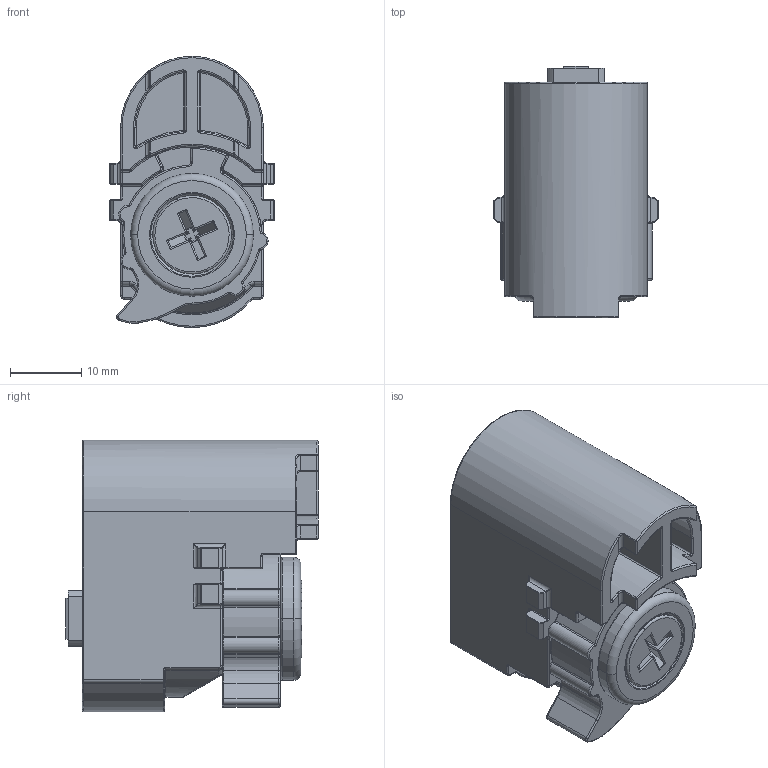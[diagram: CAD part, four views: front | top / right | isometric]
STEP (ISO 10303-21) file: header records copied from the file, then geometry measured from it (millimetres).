
FILE_DESCRIPTION (( 'STEP AP214' ), '1' );
FILE_NAME ('8-3206-1-52-04.STEP', '2017-02-03T13:25:42', ( '' ), ( '' ), 'SwSTEP 2.0', 'SolidWorks 2017', '' );
FILE_SCHEMA (( 'AUTOMOTIVE_DESIGN' ));
Length unit declared in the file: millimetre
Products named in the file (8): 00045219; 00037894; 00002812_22130901; 036001; 8-3206-1-52-04; 012133_012133-TUF; 00035794_Typ 2; 00017505
Assembly tree (7 placements, depth 2):
  8-3206-1-52-04
    00037894
    00017505
    00002812_22130901
    00035794_Typ 2
    012133_012133-TUF
    00045219
    036001
Bounding box: 23 x 35.3 x 38 mm (x, y, z)
Volume: 13701.5 mm3; surface area: 12492.7 mm2
Topology: 7 solids, 7 shells, 1071 faces, 2459 edges, 1319 vertices
Faces by surface type: cylinder 381, torus 277, plane 134, cone 107, sphere 105, bspline 67
Entity records: 32628 total; most frequent: CARTESIAN_POINT 8490, DIRECTION 5498, ORIENTED_EDGE 4696, AXIS2_PLACEMENT_3D 2372, EDGE_CURVE 2348, CIRCLE 1358, VERTEX_POINT 1299, EDGE_LOOP 1093
